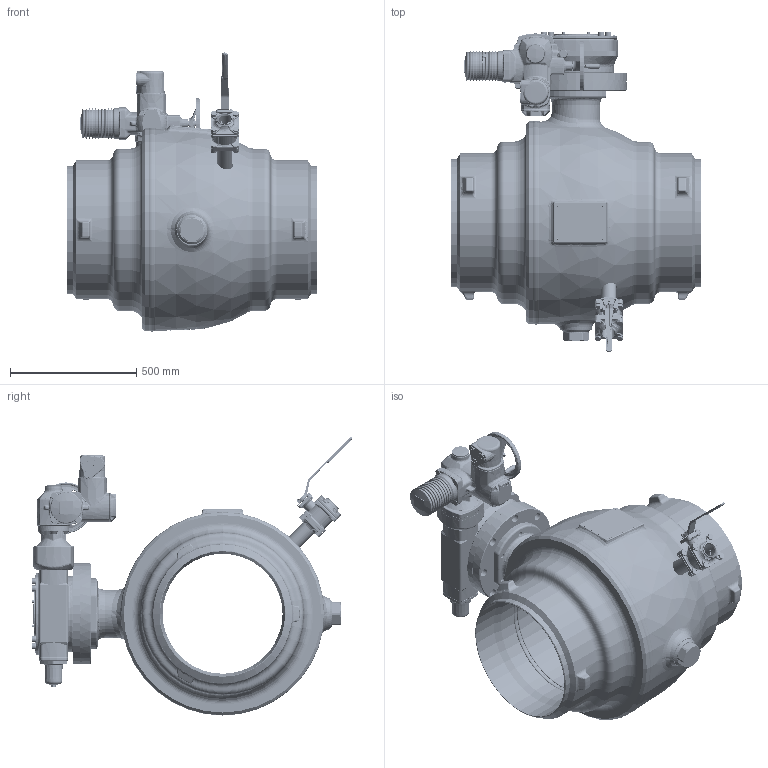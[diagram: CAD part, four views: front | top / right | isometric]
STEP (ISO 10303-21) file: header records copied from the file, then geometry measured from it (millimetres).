
FILE_DESCRIPTION((''),'2;1');
FILE_NAME('ASM0001_ASM','2026-01-28T11:07:35',('schwaba'),('KLINGER'),'CREO PARAMETRIC BY PTC INC, 2023014','CREO PARAMETRIC BY PTC INC, 2023014','');
FILE_SCHEMA(('CONFIG_CONTROL_DESIGN'));
Products named in the file (4): KHSVI_500_FR_WE_ENTL; GS160_F25_F10_DN500; SA10_2_F10_STD; ASM0001_ASM
Assembly tree (3 placements, depth 2):
  ASM0001_ASM
    KHSVI_500_FR_WE_ENTL
    GS160_F25_F10_DN500
    SA10_2_F10_STD
Bounding box: 991 x 1269.94 x 1104.86 mm (x, y, z)
Volume: 147854996.1 mm3; surface area: 10588289.2 mm2
Topology: 3 solids, 8 shells, 6683 faces, 16025 edges, 9473 vertices
Faces by surface type: plane 1727, cylinder 1608, bspline 1185, torus 1056, cone 875, sphere 143, extrusion 53, revolution 36
Entity records: 407841 total; most frequent: CARTESIAN_POINT 263153, ORIENTED_EDGE 31774, DIRECTION 28205, EDGE_CURVE 15887, AXIS2_PLACEMENT_3D 11840, VERTEX_POINT 9473, EDGE_LOOP 7070, FACE_OUTER_BOUND 6683
